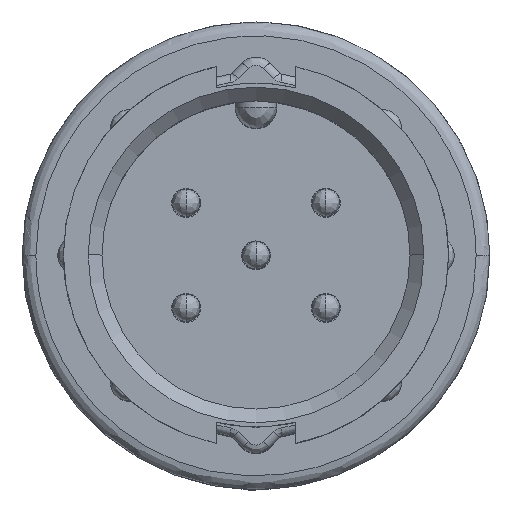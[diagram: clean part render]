
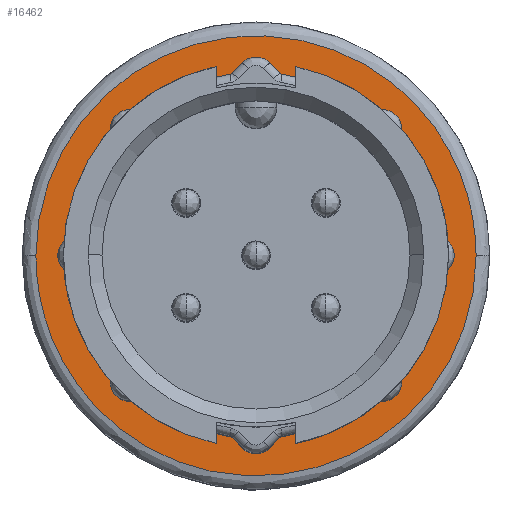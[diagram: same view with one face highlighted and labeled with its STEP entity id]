
A CAD part, top view. The second image highlights one B-rep face of the part: STEP entity #16462.
In plain terms, the highlighted planar face has unit normal (0, 0, 1).
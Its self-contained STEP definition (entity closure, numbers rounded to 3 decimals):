
#357 = CARTESIAN_POINT ( 'NONE',  ( -0.853, -6.5, -17.9 ) ) ;
#513 = CARTESIAN_POINT ( 'NONE',  ( 6.5, -0.427, -17.9 ) ) ;
#734 = CARTESIAN_POINT ( 'NONE',  ( 6.458, 0.85, -17.9 ) ) ;
#1063 = VERTEX_POINT ( 'NONE', #24068 ) ;
#1207 = CARTESIAN_POINT ( 'NONE',  ( -6.292, 1.686, -17.9 ) ) ;
#1221 = B_SPLINE_CURVE_WITH_KNOTS ( 'NONE', 3,
 ( #12330, #513, #14757, #15063, #19770, #12479, #15385, #25094, #10381, #20238, #22500, #357, #25241, #24927, #27668, #29615, #19930, #30082, #29926, #29773, #2789, #7782 ),
 .UNSPECIFIED., .F., .F.,
 ( 4, 2, 2, 2, 2, 2, 2, 2, 2, 2, 4 ),
 ( 0., 0.062, 0.125, 0.25, 0.375, 0.5, 0.625, 0.75, 0.875, 0.937, 1. ),
 .UNSPECIFIED. ) ;
#2789 = CARTESIAN_POINT ( 'NONE',  ( -6.5, -0.427, -17.9 ) ) ;
#3013 = CARTESIAN_POINT ( 'NONE',  ( 5.199, 3.993, -17.9 ) ) ;
#3166 = CARTESIAN_POINT ( 'NONE',  ( -6.5, 0.427, -17.9 ) ) ;
#3475 = CARTESIAN_POINT ( 'NONE',  ( 1.699, 6.332, -17.9 ) ) ;
#4100 = CARTESIAN_POINT ( 'NONE',  ( -6.5, 0., -17.9 ) ) ;
#4469 = FACE_BOUND ( 'NONE', #13078, .T. ) ;
#5563 = VERTEX_POINT ( 'NONE', #10557 ) ;
#5742 = CARTESIAN_POINT ( 'NONE',  ( 0.853, 6.5, -17.9 ) ) ;
#7389 = ORIENTED_EDGE ( 'NONE', *, *, #12980, .T. ) ;
#7782 = CARTESIAN_POINT ( 'NONE',  ( -6.5, 0., -17.9 ) ) ;
#8014 = CARTESIAN_POINT ( 'NONE',  ( -0.853, 6.5, -17.9 ) ) ;
#8172 = CARTESIAN_POINT ( 'NONE',  ( -6.5, 0., -17.9 ) ) ;
#8330 = CARTESIAN_POINT ( 'NONE',  ( -3.275, 5.679, -17.9 ) ) ;
#10381 = CARTESIAN_POINT ( 'NONE',  ( 3.275, -5.679, -17.9 ) ) ;
#10442 = CARTESIAN_POINT ( 'NONE',  ( 6.168, 2.093, -17.9 ) ) ;
#10557 = CARTESIAN_POINT ( 'NONE',  ( 6.5, 0., -17.9 ) ) ;
#11073 = CARTESIAN_POINT ( 'NONE',  ( -1.7, 6.332, -17.9 ) ) ;
#11466 =( BOUNDED_CURVE ( )  B_SPLINE_CURVE ( 3, ( #12490, #20091, #17514, #15396 ),
 .UNSPECIFIED., .F., .F. ) 
 B_SPLINE_CURVE_WITH_KNOTS ( ( 4, 4 ),
 ( 0., 1. ),
 .UNSPECIFIED. ) 
 CURVE ( )  GEOMETRIC_REPRESENTATION_ITEM ( )  RATIONAL_B_SPLINE_CURVE ( ( 1., 0.333, 0.333, 1. ) ) 
 REPRESENTATION_ITEM ( '' )  );
#11955 = CARTESIAN_POINT ( 'NONE',  ( -8., 0., -17.9 ) ) ;
#12330 = CARTESIAN_POINT ( 'NONE',  ( 6.5, 0., -17.9 ) ) ;
#12479 = CARTESIAN_POINT ( 'NONE',  ( 5.679, -3.275, -17.9 ) ) ;
#12490 = CARTESIAN_POINT ( 'NONE',  ( 8., 0., -17.9 ) ) ;
#12980 = EDGE_CURVE ( 'NONE', #13671, #5563, #24599, .T. ) ;
#13011 = CARTESIAN_POINT ( 'NONE',  ( -6.168, 2.093, -17.9 ) ) ;
#13078 = EDGE_LOOP ( 'NONE', ( #7389, #26144 ) ) ;
#13122 = VERTEX_POINT ( 'NONE', #18840 ) ;
#13671 = VERTEX_POINT ( 'NONE', #4100 ) ;
#13800 = EDGE_CURVE ( 'NONE', #13122, #1063, #11466, .T. ) ;
#14387 = CARTESIAN_POINT ( 'NONE',  ( -8., 16., -17.9 ) ) ;
#14757 = CARTESIAN_POINT ( 'NONE',  ( 6.458, -0.85, -17.9 ) ) ;
#15063 = CARTESIAN_POINT ( 'NONE',  ( 6.292, -1.686, -17.9 ) ) ;
#15385 = CARTESIAN_POINT ( 'NONE',  ( 5.199, -3.993, -17.9 ) ) ;
#15396 = CARTESIAN_POINT ( 'NONE',  ( -8., 0., -17.9 ) ) ;
#15422 = EDGE_CURVE ( 'NONE', #1063, #13122, #26097, .T. ) ;
#15603 = CARTESIAN_POINT ( 'NONE',  ( 6.5, 0., -17.9 ) ) ;
#15917 = CARTESIAN_POINT ( 'NONE',  ( -3.993, 5.199, -17.9 ) ) ;
#16462 = ADVANCED_FACE ( 'NONE', ( #4469, #19509 ), #26772, .T. ) ;
#17514 = CARTESIAN_POINT ( 'NONE',  ( -8., -16., -17.9 ) ) ;
#17889 = CARTESIAN_POINT ( 'NONE',  ( 6.292, 1.686, -17.9 ) ) ;
#18037 = CARTESIAN_POINT ( 'NONE',  ( -6.458, 0.85, -17.9 ) ) ;
#18195 = CARTESIAN_POINT ( 'NONE',  ( 6.5, 0.427, -17.9 ) ) ;
#18510 = CARTESIAN_POINT ( 'NONE',  ( 3.275, 5.679, -17.9 ) ) ;
#18840 = CARTESIAN_POINT ( 'NONE',  ( 8., 0., -17.9 ) ) ;
#19509 = FACE_OUTER_BOUND ( 'NONE', #29191, .T. ) ;
#19770 = CARTESIAN_POINT ( 'NONE',  ( 6.168, -2.093, -17.9 ) ) ;
#19930 = CARTESIAN_POINT ( 'NONE',  ( -5.679, -3.275, -17.9 ) ) ;
#20091 = CARTESIAN_POINT ( 'NONE',  ( 8., -16., -17.9 ) ) ;
#20238 = CARTESIAN_POINT ( 'NONE',  ( 1.7, -6.332, -17.9 ) ) ;
#22225 = DIRECTION ( 'NONE',  ( 0., 0., 1. ) ) ;
#22500 = CARTESIAN_POINT ( 'NONE',  ( 0.853, -6.5, -17.9 ) ) ;
#22718 = CARTESIAN_POINT ( 'NONE',  ( 5.679, 3.275, -17.9 ) ) ;
#24068 = CARTESIAN_POINT ( 'NONE',  ( -8., 0., -17.9 ) ) ;
#24239 = CARTESIAN_POINT ( 'NONE',  ( 8., 16., -17.9 ) ) ;
#24599 = B_SPLINE_CURVE_WITH_KNOTS ( 'NONE', 3,
 ( #8172, #3166, #18037, #1207, #13011, #30460, #27877, #15917, #8330, #11073, #8014, #5742, #3475, #18510, #30622, #3013, #22718, #10442, #17889, #734, #18195, #15603 ),
 .UNSPECIFIED., .F., .F.,
 ( 4, 2, 2, 2, 2, 2, 2, 2, 2, 2, 4 ),
 ( 0., 0.063, 0.125, 0.25, 0.375, 0.5, 0.625, 0.75, 0.875, 0.938, 1. ),
 .UNSPECIFIED. ) ;
#24927 = CARTESIAN_POINT ( 'NONE',  ( -3.275, -5.679, -17.9 ) ) ;
#25094 = CARTESIAN_POINT ( 'NONE',  ( 3.993, -5.199, -17.9 ) ) ;
#25241 = CARTESIAN_POINT ( 'NONE',  ( -1.699, -6.332, -17.9 ) ) ;
#25658 = EDGE_CURVE ( 'NONE', #5563, #13671, #1221, .T. ) ;
#26097 =( BOUNDED_CURVE ( )  B_SPLINE_CURVE ( 3, ( #11955, #14387, #24239, #26666 ),
 .UNSPECIFIED., .F., .T. ) 
 B_SPLINE_CURVE_WITH_KNOTS ( ( 4, 4 ),
 ( 0., 1. ),
 .UNSPECIFIED. ) 
 CURVE ( )  GEOMETRIC_REPRESENTATION_ITEM ( )  RATIONAL_B_SPLINE_CURVE ( ( 1., 0.333, 0.333, 1. ) ) 
 REPRESENTATION_ITEM ( '' )  );
#26144 = ORIENTED_EDGE ( 'NONE', *, *, #25658, .T. ) ;
#26666 = CARTESIAN_POINT ( 'NONE',  ( 8., 0., -17.9 ) ) ;
#26772 = PLANE ( 'NONE',  #27035 ) ;
#27035 = AXIS2_PLACEMENT_3D ( 'NONE', #31460, #22225, #29357 ) ;
#27668 = CARTESIAN_POINT ( 'NONE',  ( -3.993, -5.199, -17.9 ) ) ;
#27877 = CARTESIAN_POINT ( 'NONE',  ( -5.199, 3.993, -17.9 ) ) ;
#27980 = ORIENTED_EDGE ( 'NONE', *, *, #13800, .F. ) ;
#29191 = EDGE_LOOP ( 'NONE', ( #27980, #31482 ) ) ;
#29357 = DIRECTION ( 'NONE',  ( 1., 0., 0. ) ) ;
#29615 = CARTESIAN_POINT ( 'NONE',  ( -5.199, -3.993, -17.9 ) ) ;
#29773 = CARTESIAN_POINT ( 'NONE',  ( -6.458, -0.85, -17.9 ) ) ;
#29926 = CARTESIAN_POINT ( 'NONE',  ( -6.292, -1.686, -17.9 ) ) ;
#30082 = CARTESIAN_POINT ( 'NONE',  ( -6.168, -2.093, -17.9 ) ) ;
#30460 = CARTESIAN_POINT ( 'NONE',  ( -5.679, 3.275, -17.9 ) ) ;
#30622 = CARTESIAN_POINT ( 'NONE',  ( 3.993, 5.199, -17.9 ) ) ;
#31460 = CARTESIAN_POINT ( 'NONE',  ( -8.32, -8.322, -17.9 ) ) ;
#31482 = ORIENTED_EDGE ( 'NONE', *, *, #15422, .F. ) ;
